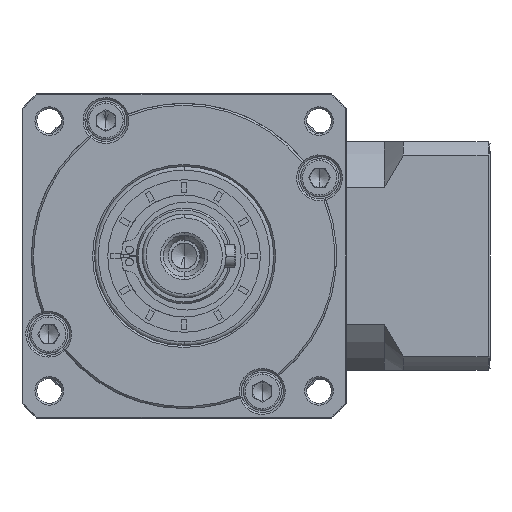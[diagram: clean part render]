
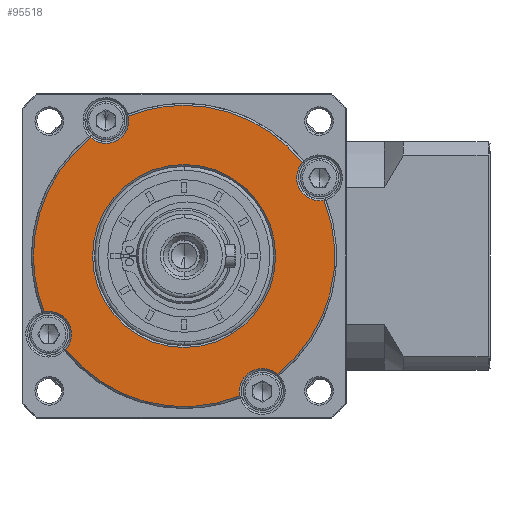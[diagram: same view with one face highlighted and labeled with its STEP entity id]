
A CAD part, left-side view. The second image highlights one B-rep face of the part: STEP entity #95518.
In plain terms, the highlighted planar face has unit normal (-1, 0, 0).
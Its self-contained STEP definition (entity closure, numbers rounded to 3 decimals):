
#3059 = EDGE_CURVE ( 'NONE', #36373, #78238, #86158, .T. ) ;
#3950 = DIRECTION ( 'NONE',  ( 1., 0., 0. ) ) ;
#4258 = VERTEX_POINT ( 'NONE', #112980 ) ;
#4599 = EDGE_CURVE ( 'NONE', #169712, #136388, #17517, .T. ) ;
#6030 = AXIS2_PLACEMENT_3D ( 'NONE', #109760, #28639, #123512 ) ;
#7723 = DIRECTION ( 'NONE',  ( 1., 0., 0. ) ) ;
#8200 = CARTESIAN_POINT ( 'NONE',  ( -105.79, -7.689, -122.437 ) ) ;
#10918 = CIRCLE ( 'NONE', #125782, 6. ) ;
#11928 = ORIENTED_EDGE ( 'NONE', *, *, #169269, .T. ) ;
#12783 = DIRECTION ( 'NONE',  ( 0., 0., 1. ) ) ;
#12855 = DIRECTION ( 'NONE',  ( 1., 0., 0. ) ) ;
#13308 = EDGE_LOOP ( 'NONE', ( #130727, #75801 ) ) ;
#14840 = CARTESIAN_POINT ( 'NONE',  ( -105.79, 6.93, -85.741 ) ) ;
#16556 = DIRECTION ( 'NONE',  ( 1., 0., 0. ) ) ;
#17492 = ORIENTED_EDGE ( 'NONE', *, *, #125609, .F. ) ;
#17517 = CIRCLE ( 'NONE', #21011, 6. ) ;
#21011 = AXIS2_PLACEMENT_3D ( 'NONE', #124760, #43488, #138455 ) ;
#21752 = DIRECTION ( 'NONE',  ( 0., 0., -1. ) ) ;
#21960 = AXIS2_PLACEMENT_3D ( 'NONE', #64642, #159544, #78300 ) ;
#24476 = CARTESIAN_POINT ( 'NONE',  ( -105.79, -7.689, -122.437 ) ) ;
#24582 = CIRCLE ( 'NONE', #83790, 39.5 ) ;
#25155 = CARTESIAN_POINT ( 'NONE',  ( -105.79, -7.689, -122.437 ) ) ;
#27732 = VERTEX_POINT ( 'NONE', #48999 ) ;
#27969 = CARTESIAN_POINT ( 'NONE',  ( -105.79, -43.196, -101.937 ) ) ;
#28570 = CIRCLE ( 'NONE', #82895, 24. ) ;
#28639 = DIRECTION ( 'NONE',  ( 1., 0., 0. ) ) ;
#33430 = ORIENTED_EDGE ( 'NONE', *, *, #117929, .T. ) ;
#36373 = VERTEX_POINT ( 'NONE', #151912 ) ;
#36668 = CIRCLE ( 'NONE', #117914, 6. ) ;
#38150 = DIRECTION ( 'NONE',  ( 0., 0., 1. ) ) ;
#38792 = DIRECTION ( 'NONE',  ( 0., 1., 0. ) ) ;
#41264 = CARTESIAN_POINT ( 'NONE',  ( -105.79, -7.689, -122.437 ) ) ;
#41580 = DIRECTION ( 'NONE',  ( 0., 0., -1. ) ) ;
#43488 = DIRECTION ( 'NONE',  ( 1., 0., 0. ) ) ;
#44451 = CIRCLE ( 'NONE', #88190, 24. ) ;
#44826 = CARTESIAN_POINT ( 'NONE',  ( -105.79, 23.319, -146.906 ) ) ;
#48999 = CARTESIAN_POINT ( 'NONE',  ( -105.79, -22.308, -159.132 ) ) ;
#50455 = DIRECTION ( 'NONE',  ( 1., 0., 0. ) ) ;
#53628 = EDGE_CURVE ( 'NONE', #27732, #78238, #24582, .T. ) ;
#54875 = DIRECTION ( 'NONE',  ( 0., -1., 0. ) ) ;
#57449 = EDGE_CURVE ( 'NONE', #138918, #171728, #57477, .T. ) ;
#57477 = CIRCLE ( 'NONE', #130117, 39.5 ) ;
#60352 = EDGE_LOOP ( 'NONE', ( #82485, #109401, #155101, #17492, #119617, #130760, #175427, #33430, #163800, #159380, #11928, #112064 ) ) ;
#63050 = CIRCLE ( 'NONE', #21960, 6. ) ;
#63589 = DIRECTION ( 'NONE',  ( 1., 0., 0. ) ) ;
#64389 = CARTESIAN_POINT ( 'NONE',  ( -105.79, -32.158, -153.444 ) ) ;
#64642 = CARTESIAN_POINT ( 'NONE',  ( -105.79, 12.811, -86.929 ) ) ;
#68571 = CARTESIAN_POINT ( 'NONE',  ( -105.79, 16.781, -91.429 ) ) ;
#69348 = CIRCLE ( 'NONE', #132569, 39.5 ) ;
#69518 = AXIS2_PLACEMENT_3D ( 'NONE', #94029, #12855, #107582 ) ;
#69722 = CARTESIAN_POINT ( 'NONE',  ( -105.79, -7.689, -82.937 ) ) ;
#75801 = ORIENTED_EDGE ( 'NONE', *, *, #170193, .T. ) ;
#78238 = VERTEX_POINT ( 'NONE', #44826 ) ;
#78300 = DIRECTION ( 'NONE',  ( 0., 0., -1. ) ) ;
#82485 = ORIENTED_EDGE ( 'NONE', *, *, #57449, .F. ) ;
#82895 = AXIS2_PLACEMENT_3D ( 'NONE', #41264, #136234, #54875 ) ;
#83790 = AXIS2_PLACEMENT_3D ( 'NONE', #144874, #63589, #158494 ) ;
#84779 = EDGE_CURVE ( 'NONE', #138918, #151618, #86929, .T. ) ;
#85126 = CARTESIAN_POINT ( 'NONE',  ( -105.79, 12.811, -86.929 ) ) ;
#86158 = CIRCLE ( 'NONE', #6030, 6. ) ;
#86929 = CIRCLE ( 'NONE', #158992, 6. ) ;
#88190 = AXIS2_PLACEMENT_3D ( 'NONE', #97730, #16556, #111300 ) ;
#88863 = CARTESIAN_POINT ( 'NONE',  ( -105.79, -7.689, -122.437 ) ) ;
#91570 = CARTESIAN_POINT ( 'NONE',  ( -105.79, 31.811, -122.437 ) ) ;
#93422 = FACE_BOUND ( 'NONE', #13308, .T. ) ;
#93950 = DIRECTION ( 'NONE',  ( 1., 0., 0. ) ) ;
#94029 = CARTESIAN_POINT ( 'NONE',  ( -105.79, -7.689, -122.437 ) ) ;
#95518 = ADVANCED_FACE ( 'NONE', ( #129607, #93422 ), #129783, .T. ) ;
#97730 = CARTESIAN_POINT ( 'NONE',  ( -105.79, -7.689, -122.437 ) ) ;
#98601 = VERTEX_POINT ( 'NONE', #91570 ) ;
#98736 = DIRECTION ( 'NONE',  ( 0., 0., -1. ) ) ;
#99356 = VERTEX_POINT ( 'NONE', #68571 ) ;
#100698 = AXIS2_PLACEMENT_3D ( 'NONE', #8200, #102959, #21752 ) ;
#102486 = DIRECTION ( 'NONE',  ( 0., 1., 0. ) ) ;
#102959 = DIRECTION ( 'NONE',  ( -1., 0., 0. ) ) ;
#105107 = AXIS2_PLACEMENT_3D ( 'NONE', #24476, #119382, #38150 ) ;
#107582 = DIRECTION ( 'NONE',  ( 0., 0., 1. ) ) ;
#109401 = ORIENTED_EDGE ( 'NONE', *, *, #84779, .T. ) ;
#109760 = CARTESIAN_POINT ( 'NONE',  ( -105.79, 27.818, -142.937 ) ) ;
#111300 = DIRECTION ( 'NONE',  ( 0., -1., 0. ) ) ;
#112064 = ORIENTED_EDGE ( 'NONE', *, *, #160829, .F. ) ;
#112980 = CARTESIAN_POINT ( 'NONE',  ( -105.79, -38.697, -97.967 ) ) ;
#117914 = AXIS2_PLACEMENT_3D ( 'NONE', #27969, #122838, #41580 ) ;
#117929 = EDGE_CURVE ( 'NONE', #27732, #151006, #10918, .T. ) ;
#118163 = CIRCLE ( 'NONE', #174691, 39.5 ) ;
#118970 = CARTESIAN_POINT ( 'NONE',  ( -105.79, 16.311, -122.437 ) ) ;
#119382 = DIRECTION ( 'NONE',  ( 1., 0., 0. ) ) ;
#119617 = ORIENTED_EDGE ( 'NONE', *, *, #168033, .F. ) ;
#120021 = DIRECTION ( 'NONE',  ( 1., 0., 0. ) ) ;
#122838 = DIRECTION ( 'NONE',  ( 1., 0., 0. ) ) ;
#123512 = DIRECTION ( 'NONE',  ( 0., 0., -1. ) ) ;
#124760 = CARTESIAN_POINT ( 'NONE',  ( -105.79, -43.196, -101.937 ) ) ;
#125609 = EDGE_CURVE ( 'NONE', #98601, #99356, #118163, .T. ) ;
#125782 = AXIS2_PLACEMENT_3D ( 'NONE', #131805, #50455, #145369 ) ;
#129607 = FACE_OUTER_BOUND ( 'NONE', #60352, .T. ) ;
#129783 = PLANE ( 'NONE',  #100698 ) ;
#130117 = AXIS2_PLACEMENT_3D ( 'NONE', #175118, #93950, #12783 ) ;
#130727 = ORIENTED_EDGE ( 'NONE', *, *, #146185, .T. ) ;
#130760 = ORIENTED_EDGE ( 'NONE', *, *, #3059, .T. ) ;
#131805 = CARTESIAN_POINT ( 'NONE',  ( -105.79, -28.189, -157.944 ) ) ;
#132569 = AXIS2_PLACEMENT_3D ( 'NONE', #88863, #7723, #102486 ) ;
#136086 = CARTESIAN_POINT ( 'NONE',  ( -105.79, 12.811, -92.929 ) ) ;
#136234 = DIRECTION ( 'NONE',  ( 1., 0., 0. ) ) ;
#136388 = VERTEX_POINT ( 'NONE', #162603 ) ;
#137740 = CIRCLE ( 'NONE', #69518, 39.5 ) ;
#138455 = DIRECTION ( 'NONE',  ( 0., 0., -1. ) ) ;
#138918 = VERTEX_POINT ( 'NONE', #14840 ) ;
#144874 = CARTESIAN_POINT ( 'NONE',  ( -105.79, -7.689, -122.437 ) ) ;
#145369 = DIRECTION ( 'NONE',  ( 0., 0., -1. ) ) ;
#146185 = EDGE_CURVE ( 'NONE', #150083, #170044, #44451, .T. ) ;
#149888 = EDGE_CURVE ( 'NONE', #151618, #99356, #63050, .T. ) ;
#150083 = VERTEX_POINT ( 'NONE', #167232 ) ;
#151006 = VERTEX_POINT ( 'NONE', #64389 ) ;
#151618 = VERTEX_POINT ( 'NONE', #136086 ) ;
#151912 = CARTESIAN_POINT ( 'NONE',  ( -105.79, 29.007, -137.055 ) ) ;
#155101 = ORIENTED_EDGE ( 'NONE', *, *, #149888, .T. ) ;
#157723 = CIRCLE ( 'NONE', #105107, 39.5 ) ;
#158494 = DIRECTION ( 'NONE',  ( 0., 0., 1. ) ) ;
#158992 = AXIS2_PLACEMENT_3D ( 'NONE', #85126, #3950, #98736 ) ;
#159380 = ORIENTED_EDGE ( 'NONE', *, *, #4599, .T. ) ;
#159544 = DIRECTION ( 'NONE',  ( 1., 0., 0. ) ) ;
#160829 = EDGE_CURVE ( 'NONE', #171728, #4258, #137740, .T. ) ;
#162420 = EDGE_CURVE ( 'NONE', #169712, #151006, #157723, .T. ) ;
#162603 = CARTESIAN_POINT ( 'NONE',  ( -105.79, -43.196, -107.937 ) ) ;
#163800 = ORIENTED_EDGE ( 'NONE', *, *, #162420, .F. ) ;
#167232 = CARTESIAN_POINT ( 'NONE',  ( -105.79, -31.689, -122.437 ) ) ;
#168033 = EDGE_CURVE ( 'NONE', #36373, #98601, #69348, .T. ) ;
#169269 = EDGE_CURVE ( 'NONE', #136388, #4258, #36668, .T. ) ;
#169712 = VERTEX_POINT ( 'NONE', #175307 ) ;
#170044 = VERTEX_POINT ( 'NONE', #118970 ) ;
#170193 = EDGE_CURVE ( 'NONE', #170044, #150083, #28570, .T. ) ;
#171728 = VERTEX_POINT ( 'NONE', #69722 ) ;
#174691 = AXIS2_PLACEMENT_3D ( 'NONE', #25155, #120021, #38792 ) ;
#175118 = CARTESIAN_POINT ( 'NONE',  ( -105.79, -7.689, -122.437 ) ) ;
#175307 = CARTESIAN_POINT ( 'NONE',  ( -105.79, -44.384, -107.818 ) ) ;
#175427 = ORIENTED_EDGE ( 'NONE', *, *, #53628, .F. ) ;
